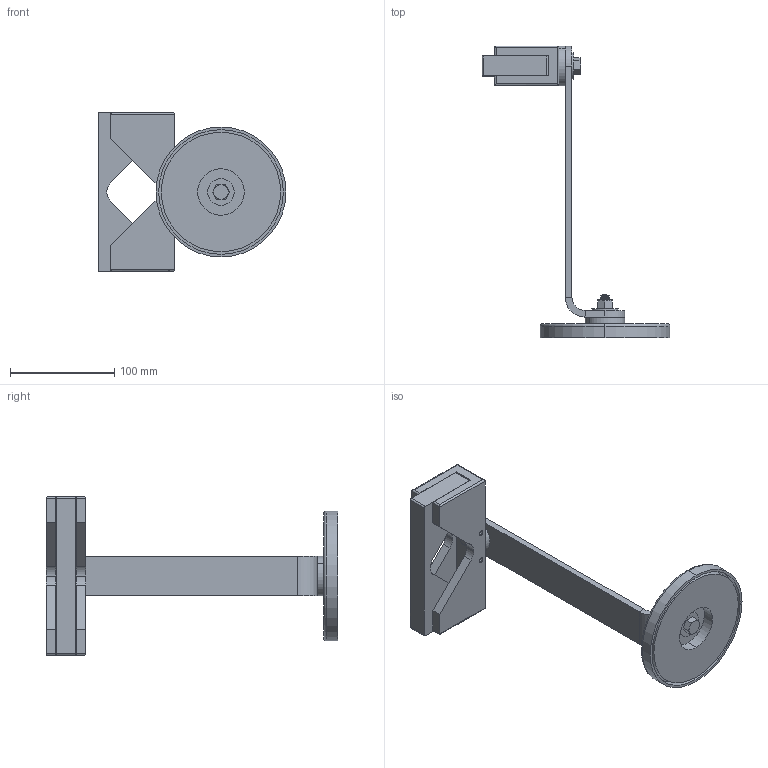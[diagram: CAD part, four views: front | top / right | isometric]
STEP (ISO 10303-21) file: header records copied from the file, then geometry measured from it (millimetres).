
FILE_DESCRIPTION (( 'STEP AP214' ), '1' );
FILE_NAME ('FLHM.STEP', '2016-01-29T16:41:25', ( '' ), ( '' ), 'SwSTEP 2.0', 'SolidWorks 2016', '' );
FILE_SCHEMA (( 'AUTOMOTIVE_DESIGN' ));
Length unit declared in the file: inch
Products named in the file (11): FLHM adapter L bracket; FLHM; hex nut_ai_HNUT 0.3750-16-D-N; hex bolt_ai_HBOLT 0.3750-16x1.25x1-S; hex bolt_ai_HBOLT 0.3750-16x1x1-S; flat washer type b regular_ai_Regular FW 0.375; socket head cap screw_ai_HX-SHCS 0.25-20x0.375x0.375-N; Big magnet; Male clamp; plastic friction washer; FemaleClamplarge closed
Assembly tree (14 placements, depth 2):
  FLHM
    FLHM adapter L bracket
    FemaleClamplarge closed
    plastic friction washer  x2
    Male clamp
    Big magnet
    socket head cap screw_ai_HX-SHCS 0.25-20x0.375x0.375-N  x2
    flat washer type b regular_ai_Regular FW 0.375  x3
    hex bolt_ai_HBOLT 0.3750-16x1x1-S
    hex bolt_ai_HBOLT 0.3750-16x1.25x1-S
    hex nut_ai_HNUT 0.3750-16-D-N
Bounding box: 180.53 x 280.16 x 152.4 mm (x, y, z)
Volume: 501579.7 mm3; surface area: 139850.4 mm2
Topology: 14 solids, 14 shells, 470 faces, 1132 edges, 701 vertices
Faces by surface type: cone 195, cylinder 153, plane 114, torus 6, bspline 2
Entity records: 13769 total; most frequent: CARTESIAN_POINT 2536, DIRECTION 2385, ORIENTED_EDGE 2072, EDGE_CURVE 1036, AXIS2_PLACEMENT_3D 975, VERTEX_POINT 644, CIRCLE 535, EDGE_LOOP 456
